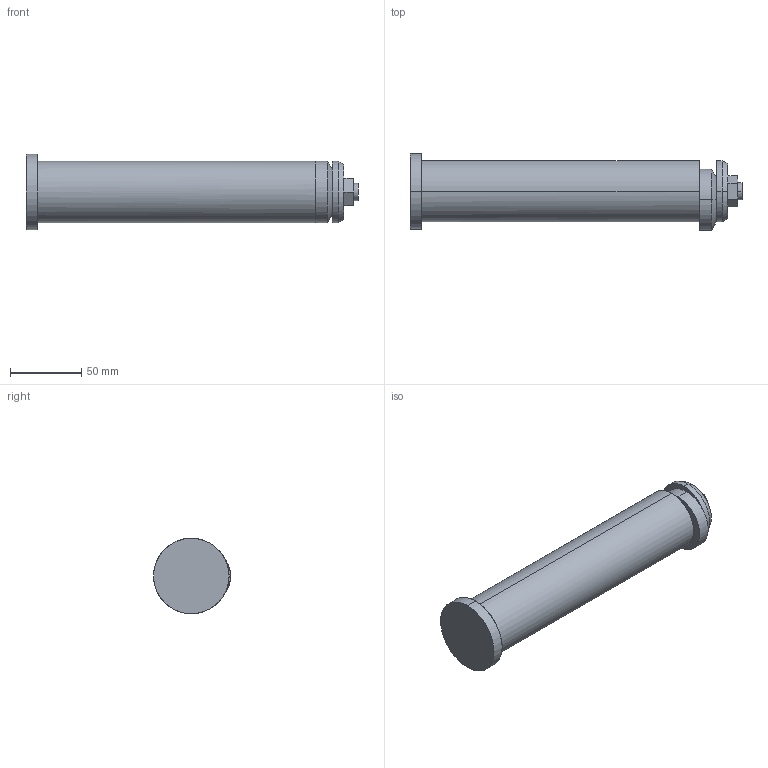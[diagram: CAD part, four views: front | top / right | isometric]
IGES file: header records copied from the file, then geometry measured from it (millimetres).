
Start section: START RECORD GO HERE.
Global section: file name: 395PSF-3.igs; native system: DASSAULT SYSTEMES CATIA V5 R20 - www.3ds.com; preprocessor: CATIA Version 5 Release 20 ; author: Utente; organization: NB04-ASUS; date: 20200409.225225; units: millimetre
Bounding box: 233 x 54 x 53 mm (x, y, z)
Surface area: 39179.4 mm2 (no closed solid volume)
Topology: 0 solids, 0 shells, 34 faces, 144 edges, 143 vertices
Faces by surface type: revolution 18, extrusion 16
